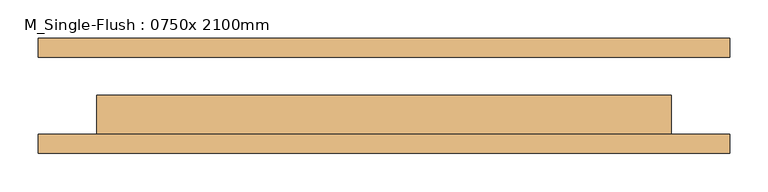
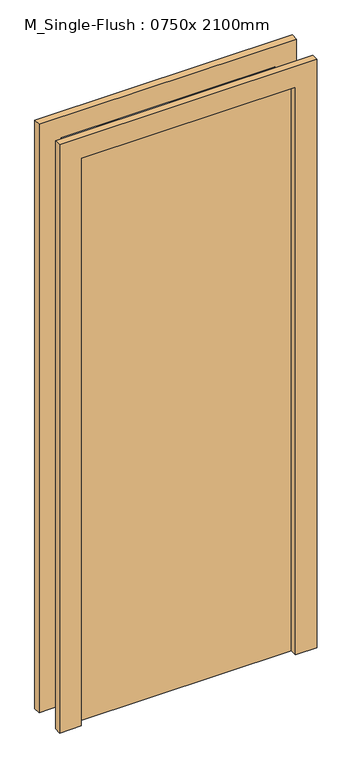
"""IFC4 building model written with IfcOpenShell, lengths in millimetres: door geometry, M_Single-Flush : 0750x 2100mm."""

from ifc_helpers import new_model, si_unit, frame, origin, origin_with_axes, place, context, project, spatial, polyline, outline, extrude, source, transform, mapped, element, save


def m_single_flush_0750x_2100mm_00401f9a(model_context):
    return source(origin(), model_context, "Body", "SweptSolid", [
        extrude(outline(polyline([(2176.0, -451.0), (0.0, -451.0), (0.0, -375.0), (2100.0, -375.0), (2100.0, 375.0), (0.0, 375.0), (0.0, 451.0), (2176.0, 451.0), (2176.0, -451.0)])), frame((0.0, -75.0, 0.0), z_axis=(0.0, 1.0, 0.0), x_axis=(0.0, 0.0, 1.0)), (0.0, 0.0, 1.0), 25.0),
        extrude(outline(polyline([(2176.0, 451.0), (2176.0, -451.0), (0.0, -451.0), (0.0, -375.0), (2100.0, -375.0), (2100.0, 375.0), (0.0, 375.0), (0.0, 451.0), (2176.0, 451.0)])), frame((0.0, 50.0, 0.0), z_axis=(0.0, 1.0, 0.0), x_axis=(0.0, 0.0, 1.0)), (0.0, 0.0, 1.0), 25.0),
        extrude(outline(polyline([(375.0, 1.0), (375.0, -50.0), (-375.0, -50.0), (-375.0, 1.0), (375.0, 1.0)])), origin_with_axes(), (0.0, 0.0, 1.0), 2100.0),
    ])


if __name__ == "__main__":
    model = new_model("IFC4")
    model_context = context("Model", 3, world=origin())
    ifc_project = project(units=[si_unit("LENGTHUNIT", "METRE", prefix="MILLI")], contexts=[model_context])
    site = spatial("IfcSite", under=ifc_project)
    building = spatial("IfcBuilding", under=site)
    placement = place(None, origin())
    m_single_flush_0750x_2100mm_shape = m_single_flush_0750x_2100mm_00401f9a(model_context)
    element("IfcDoor", 1, ObjectType="M_Single-Flush : 0750x 2100mm", at=placement, inside=building, context=model_context, shape_type="MappedRepresentation", body=[
        mapped(m_single_flush_0750x_2100mm_shape, transform((0.0, 0.0, 0.0), x_axis=(1.0, 0.0, 0.0), y_axis=(0.0, 1.0, 0.0), z_axis=(0.0, 0.0, 1.0))),
    ])
    save(model, "model.ifc")
